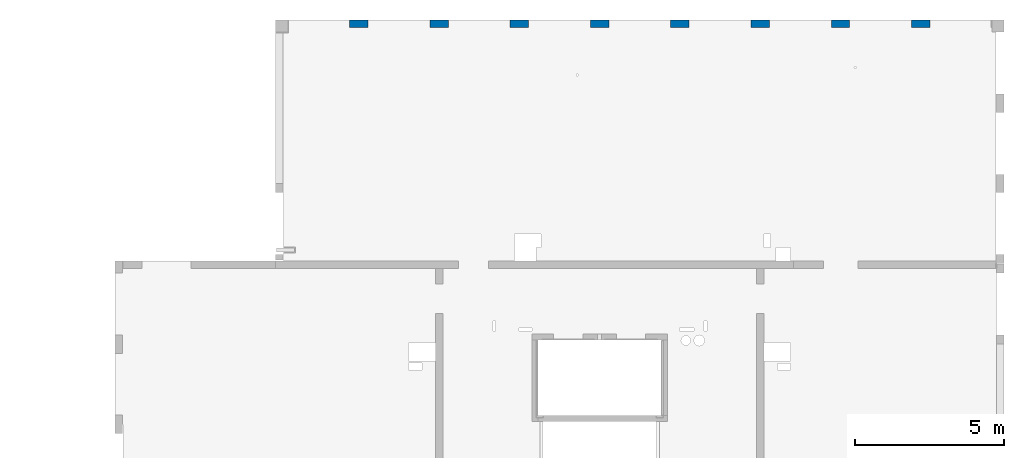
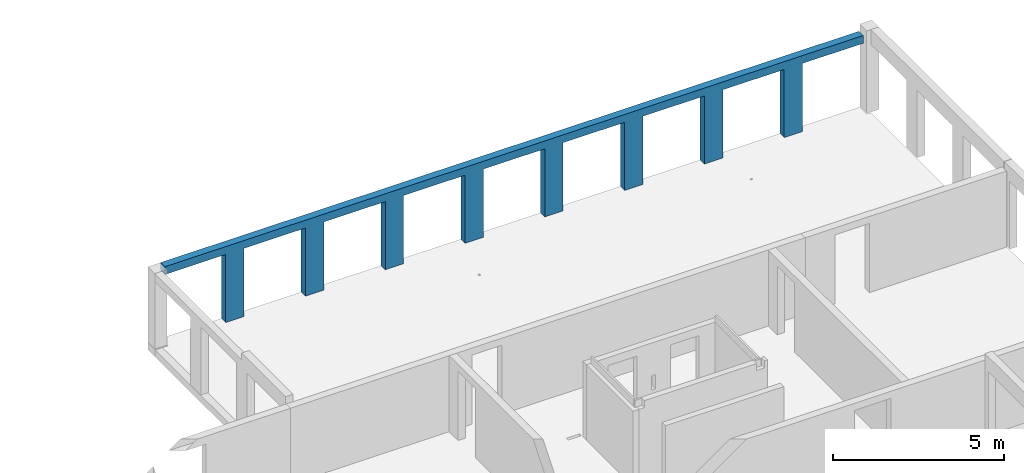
# One storey, part 7 of 11: 1 wall, 9 openings.
"""IFC2X3 building model written with IfcOpenShell, lengths in millimetres."""

from ifc_helpers import new_model, entity, si_unit, converted_unit, derived_unit, direction, frame, frame_2d, origin, place, context, subcontext, project, spatial, rectangle, extrude, material, layer, layer_set, layer_usage, type_object, element, save


model = new_model("IFC2X3")

# Units and contexts
model_context = context("Model", 3, precision=0.01, world=origin(), true_north=direction((6.12303176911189e-17, 1.0)))
body_context = subcontext(model_context, "Body", "Model", "MODEL_VIEW")
ifc_project = project(units=[si_unit("LENGTHUNIT", "METRE", prefix="MILLI"), si_unit("AREAUNIT", "SQUARE_METRE"), si_unit("VOLUMEUNIT", "CUBIC_METRE"), converted_unit("PLANEANGLEUNIT", "DEGREE", entity("IfcRatioMeasure", 0.0174532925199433), si_unit("PLANEANGLEUNIT", "RADIAN"), dimensions=[0, 0, 0, 0, 0, 0, 0]), si_unit("MASSUNIT", "GRAM", prefix="KILO"), derived_unit("MASSDENSITYUNIT", [(si_unit("MASSUNIT", "GRAM", prefix="KILO"), 1), (si_unit("LENGTHUNIT", "METRE"), -3)]), si_unit("TIMEUNIT", "SECOND"), si_unit("FREQUENCYUNIT", "HERTZ"), si_unit("THERMODYNAMICTEMPERATUREUNIT", "DEGREE_CELSIUS"), derived_unit("THERMALTRANSMITTANCEUNIT", [(si_unit("MASSUNIT", "GRAM", prefix="KILO"), 1), (si_unit("THERMODYNAMICTEMPERATUREUNIT", "KELVIN"), -1), (si_unit("TIMEUNIT", "SECOND"), -3)]), derived_unit("VOLUMETRICFLOWRATEUNIT", [(si_unit("LENGTHUNIT", "METRE"), 3), (si_unit("TIMEUNIT", "SECOND"), -1)]), si_unit("ELECTRICCURRENTUNIT", "AMPERE"), si_unit("ELECTRICVOLTAGEUNIT", "VOLT"), si_unit("POWERUNIT", "WATT"), si_unit("FORCEUNIT", "NEWTON", prefix="KILO"), si_unit("ILLUMINANCEUNIT", "LUX"), si_unit("LUMINOUSFLUXUNIT", "LUMEN"), si_unit("LUMINOUSINTENSITYUNIT", "CANDELA"), derived_unit("USERDEFINED", [(si_unit("MASSUNIT", "GRAM", prefix="KILO"), -1), (si_unit("LENGTHUNIT", "METRE"), -2), (si_unit("TIMEUNIT", "SECOND"), 3), (si_unit("LUMINOUSFLUXUNIT", "LUMEN"), 1)]), derived_unit("LINEARVELOCITYUNIT", [(si_unit("LENGTHUNIT", "METRE"), 1), (si_unit("TIMEUNIT", "SECOND"), -1)]), si_unit("PRESSUREUNIT", "PASCAL"), derived_unit("USERDEFINED", [(si_unit("LENGTHUNIT", "METRE"), -2), (si_unit("MASSUNIT", "GRAM", prefix="KILO"), 1), (si_unit("TIMEUNIT", "SECOND"), -2)])], contexts=[model_context])

# Site, building, storey
site_placement = place(None, origin())
site = spatial("IfcSite", under=ifc_project, at=site_placement, Name="Default", CompositionType="ELEMENT")
building_placement = place(site_placement, origin())
building = spatial("IfcBuilding", under=site, at=building_placement, Name="niet gebruiken", CompositionType="ELEMENT")
storey_placement = place(building_placement, frame((0.0, 0.0, 54180.0)))
storey = spatial("IfcBuildingStorey", under=building, at=storey_placement, Name="18 achttiende verdieping", CompositionType="ELEMENT", Elevation=54180.0)

# Wall, openings
ifc_material = material(Name="NLRS_f2_beton ihwg")
ifc_layer = layer(ifc_material, 250.0)
ifc_layer_set = layer_set([ifc_layer], Name="Basic Wall:NLRS_21.21_WA_beton ihwg d=250_gen")
ifc_layer_usage = layer_usage(ifc_layer_set, "AXIS2", "NEGATIVE", 125.0)
wall_type = type_object("IfcWallType", Name="Basic Wall:NLRS_21.21_WA_beton ihwg d=250_gen", PredefinedType="STANDARD", material=ifc_layer_set)
wall_placement = place(storey_placement, frame((104970.0, 53131.0, -90.0), z_axis=(0.0, 0.0, 1.0), x_axis=(-1.0, 0.0, 0.0)))
wall = element("IfcWallStandardCase", 1, at=wall_placement, inside=storey, type_object=wall_type, material=ifc_layer_usage, Name="Basic Wall:NLRS_21.21_WA_beton ihwg d=250_gen", ObjectType="Basic Wall:NLRS_21.21_WA_beton ihwg d=250_gen", context=body_context, shape_type="SweptSolid", body=[
    extrude(rectangle(XDim=23640.0000000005, YDim=249.999999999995, at=frame_2d((11820.0000000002, 5.82645043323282e-13), x_axis=(-1.0, 0.0))), origin(), (0.0, 0.0, 1.0), 2720.00000000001),
])
opening_1_placement = place(wall_placement, origin())
element("IfcOpeningElement", 2, at=opening_1_placement, cuts=wall, Name="Basic Wall:NLRS_21.21_WA_beton ihwg d=250_gen", ObjectType="Opening", context=body_context, shape_type="SweptSolid", body=[
    extrude(rectangle(XDim=2440.0, YDim=2080.0, at=frame_2d((8.64019966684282e-12, 0.0), x_axis=(0.0, 1.0))), frame((22620.0, -1399.0, 1220.0), z_axis=(0.0, 1.0, 0.0), x_axis=(-1.0, 0.0, 0.0)), (0.0, 0.0, 1.0), 3048.0),
])
opening_2_placement = place(wall_placement, origin())
element("IfcOpeningElement", 3, at=opening_2_placement, cuts=wall, Name="Basic Wall:NLRS_21.21_WA_beton ihwg d=250_gen", ObjectType="Opening", context=body_context, shape_type="SweptSolid", body=[
    extrude(rectangle(XDim=2440.0, YDim=2080.0, at=frame_2d((-8.64019966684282e-12, 0.0), x_axis=(0.0, 1.0))), frame((19920.0, -1399.0, 1220.0), z_axis=(0.0, 1.0, 0.0), x_axis=(-1.0, 0.0, 0.0)), (0.0, 0.0, 1.0), 3048.0),
])
opening_3_placement = place(wall_placement, origin())
element("IfcOpeningElement", 4, at=opening_3_placement, cuts=wall, Name="Basic Wall:NLRS_21.21_WA_beton ihwg d=250_gen", ObjectType="Opening", context=body_context, shape_type="SweptSolid", body=[
    extrude(rectangle(XDim=2440.0, YDim=2080.0, at=frame_2d((-8.64019966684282e-12, 0.0), x_axis=(0.0, 1.0))), frame((17220.0, -1399.0, 1220.0), z_axis=(0.0, 1.0, 0.0), x_axis=(-1.0, 0.0, 0.0)), (0.0, 0.0, 1.0), 3048.0),
])
opening_4_placement = place(wall_placement, origin())
element("IfcOpeningElement", 5, at=opening_4_placement, cuts=wall, Name="Basic Wall:NLRS_21.21_WA_beton ihwg d=250_gen", ObjectType="Opening", context=body_context, shape_type="SweptSolid", body=[
    extrude(rectangle(XDim=2440.0, YDim=2080.0, at=frame_2d((8.64019966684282e-12, 0.0), x_axis=(0.0, 1.0))), frame((14520.0, -1399.0, 1220.0), z_axis=(0.0, 1.0, 0.0), x_axis=(-1.0, 0.0, 0.0)), (0.0, 0.0, 1.0), 3048.0),
])
opening_5_placement = place(wall_placement, origin())
element("IfcOpeningElement", 6, at=opening_5_placement, cuts=wall, Name="Basic Wall:NLRS_21.21_WA_beton ihwg d=250_gen", ObjectType="Opening", context=body_context, shape_type="SweptSolid", body=[
    extrude(rectangle(XDim=2440.0, YDim=2080.0, at=frame_2d((-8.64019966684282e-12, 0.0), x_axis=(0.0, 1.0))), frame((11820.0, -1399.0, 1220.0), z_axis=(0.0, 1.0, 0.0), x_axis=(-1.0, 0.0, 0.0)), (0.0, 0.0, 1.0), 3048.0),
])
opening_6_placement = place(wall_placement, origin())
element("IfcOpeningElement", 7, at=opening_6_placement, cuts=wall, Name="Basic Wall:NLRS_21.21_WA_beton ihwg d=250_gen", ObjectType="Opening", context=body_context, shape_type="SweptSolid", body=[
    extrude(rectangle(XDim=2440.0, YDim=2080.0, at=frame_2d((-8.64019966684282e-12, 0.0), x_axis=(0.0, 1.0))), frame((9120.0, -1399.0, 1220.0), z_axis=(0.0, 1.0, 0.0), x_axis=(-1.0, 0.0, 0.0)), (0.0, 0.0, 1.0), 3048.0),
])
opening_7_placement = place(wall_placement, origin())
element("IfcOpeningElement", 8, at=opening_7_placement, cuts=wall, Name="Basic Wall:NLRS_21.21_WA_beton ihwg d=250_gen", ObjectType="Opening", context=body_context, shape_type="SweptSolid", body=[
    extrude(rectangle(XDim=2440.0, YDim=2080.0, at=frame_2d((8.64019966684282e-12, 0.0), x_axis=(0.0, 1.0))), frame((6420.0, -1399.0, 1220.0), z_axis=(0.0, 1.0, 0.0), x_axis=(-1.0, 0.0, 0.0)), (0.0, 0.0, 1.0), 3048.0),
])
opening_8_placement = place(wall_placement, origin())
element("IfcOpeningElement", 9, at=opening_8_placement, cuts=wall, Name="Basic Wall:NLRS_21.21_WA_beton ihwg d=250_gen", ObjectType="Opening", context=body_context, shape_type="SweptSolid", body=[
    extrude(rectangle(XDim=2440.0, YDim=2080.0, at=frame_2d((8.64019966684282e-12, 0.0), x_axis=(0.0, 1.0))), frame((3720.0, -1399.0, 1220.0), z_axis=(0.0, 1.0, 0.0), x_axis=(-1.0, 0.0, 0.0)), (0.0, 0.0, 1.0), 3048.0),
])
opening_9_placement = place(wall_placement, origin())
element("IfcOpeningElement", 10, at=opening_9_placement, cuts=wall, Name="Basic Wall:NLRS_21.21_WA_beton ihwg d=250_gen", ObjectType="Opening", context=body_context, shape_type="SweptSolid", body=[
    extrude(rectangle(XDim=2440.0, YDim=2080.0, at=frame_2d((-8.64019966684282e-12, 0.0), x_axis=(0.0, 1.0))), frame((1020.0, -1399.0, 1220.0), z_axis=(0.0, 1.0, 0.0), x_axis=(-1.0, 0.0, 0.0)), (0.0, 0.0, 1.0), 3048.0),
])

save(model, "model.ifc")
